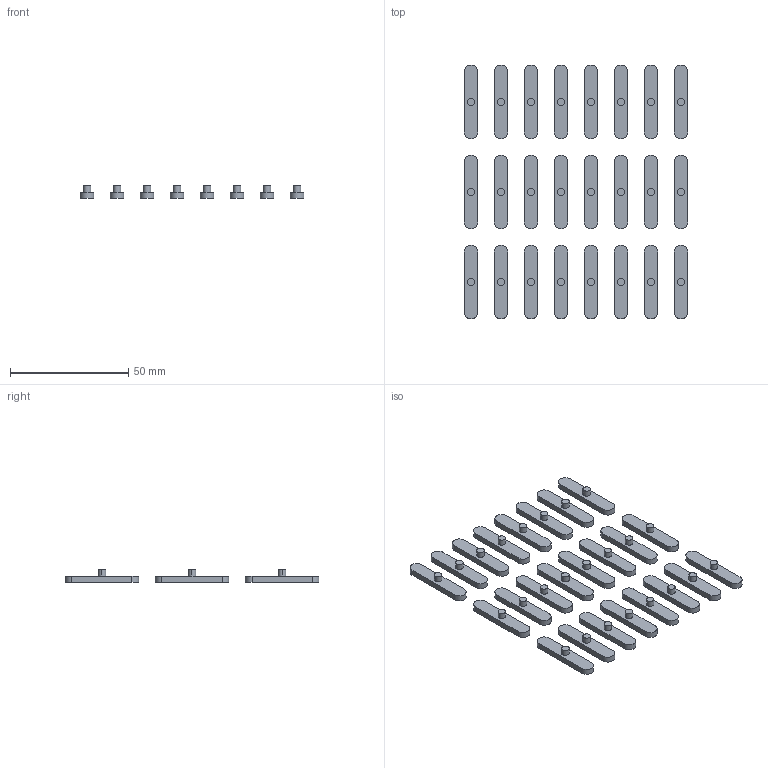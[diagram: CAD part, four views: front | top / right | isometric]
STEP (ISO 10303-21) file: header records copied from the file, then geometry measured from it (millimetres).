
FILE_DESCRIPTION (( 'STEP AP214' ), '1' );
FILE_NAME ('Foot.STEP', '2017-08-25T17:45:55', ( 'John' ), ( 'None' ), 'SwSTEP 2.0', 'SolidWorks 2007', '' );
FILE_SCHEMA (( 'AUTOMOTIVE_DESIGN' ));
Length unit declared in the file: inch
Products named in the file (2): Foot; foot_11
Assembly tree (24 placements, depth 2):
  Foot
    foot_11  x24
Bounding box: 94.74 x 107.44 x 5.08 mm (x, y, z)
Volume: 11162.3 mm3; surface area: 13232.8 mm2
Topology: 24 solids, 24 shells, 216 faces, 432 edges, 288 vertices
Faces by surface type: plane 120, cylinder 96
Entity records: 485 total; most frequent: DIRECTION 98, CARTESIAN_POINT 66, AXIS2_PLACEMENT_3D 44, ORIENTED_EDGE 36, PRODUCT_DEFINITION_SHAPE 26, ITEM_DEFINED_TRANSFORMATION 24, CONTEXT_DEPENDENT_SHAPE_REPRESENTATION 24, NEXT_ASSEMBLY_USAGE_OCCURRENCE 24
